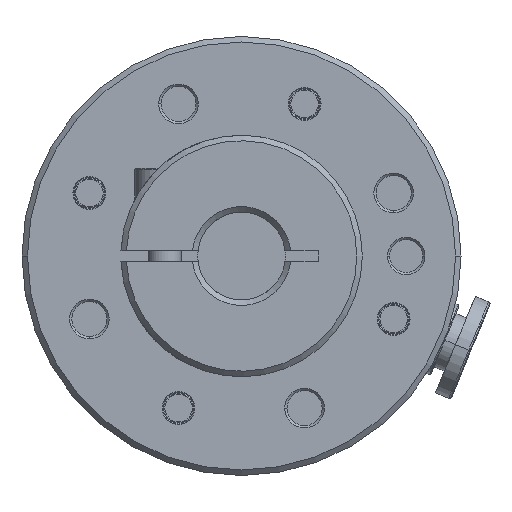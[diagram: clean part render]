
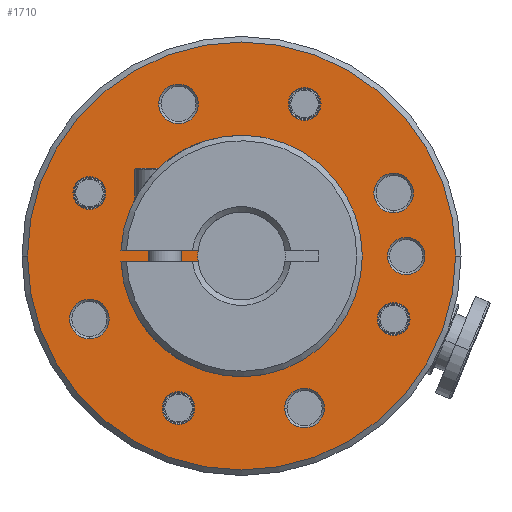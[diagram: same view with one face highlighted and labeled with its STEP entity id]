
A CAD part, front view. The second image highlights one B-rep face of the part: STEP entity #1710.
In plain terms, the highlighted planar face has unit normal (0, -1, 0).
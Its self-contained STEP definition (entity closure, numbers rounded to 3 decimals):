
#33=CARTESIAN_POINT('',(0.,-4.,0.));
#34=DIRECTION('',(0.,1.,0.));
#35=DIRECTION('',(-1.,0.,0.));
#36=AXIS2_PLACEMENT_3D('',#33,#34,#35);
#178=CARTESIAN_POINT('',(0.,-4.,0.));
#179=DIRECTION('',(0.,1.,0.));
#180=DIRECTION('',(-0.992,0.,-0.125));
#181=AXIS2_PLACEMENT_3D('',#178,#179,#180);
#231=CARTESIAN_POINT('',(0.,-4.,0.));
#232=DIRECTION('',(0.,-1.,0.));
#233=DIRECTION('',(1.,0.,0.));
#234=AXIS2_PLACEMENT_3D('',#231,#232,#233);
#236=CARTESIAN_POINT('',(0.,-4.,0.));
#237=DIRECTION('',(0.,-1.,0.));
#238=DIRECTION('',(-1.,0.,0.));
#239=AXIS2_PLACEMENT_3D('',#236,#237,#238);
#241=CARTESIAN_POINT('',(5.74,-4.,13.858));
#242=DIRECTION('',(0.,1.,0.));
#243=DIRECTION('',(1.,0.,0.));
#244=AXIS2_PLACEMENT_3D('',#241,#242,#243);
#246=CARTESIAN_POINT('',(5.74,-4.,13.858));
#247=DIRECTION('',(0.,1.,0.));
#248=DIRECTION('',(-1.,0.,0.));
#249=AXIS2_PLACEMENT_3D('',#246,#247,#248);
#251=CARTESIAN_POINT('',(13.858,-4.,-5.74));
#252=DIRECTION('',(0.,1.,0.));
#253=DIRECTION('',(0.,0.,1.));
#254=AXIS2_PLACEMENT_3D('',#251,#252,#253);
#256=CARTESIAN_POINT('',(13.858,-4.,-5.74));
#257=DIRECTION('',(0.,1.,0.));
#258=DIRECTION('',(0.,0.,-1.));
#259=AXIS2_PLACEMENT_3D('',#256,#257,#258);
#261=CARTESIAN_POINT('',(-13.858,-4.,5.74));
#262=DIRECTION('',(0.,1.,0.));
#263=DIRECTION('',(0.,0.,1.));
#264=AXIS2_PLACEMENT_3D('',#261,#262,#263);
#266=CARTESIAN_POINT('',(-13.858,-4.,5.74));
#267=DIRECTION('',(0.,1.,0.));
#268=DIRECTION('',(0.,0.,-1.));
#269=AXIS2_PLACEMENT_3D('',#266,#267,#268);
#271=CARTESIAN_POINT('',(-5.74,-4.,-13.858));
#272=DIRECTION('',(0.,1.,0.));
#273=DIRECTION('',(-1.,0.,0.));
#274=AXIS2_PLACEMENT_3D('',#271,#272,#273);
#276=CARTESIAN_POINT('',(-5.74,-4.,-13.858));
#277=DIRECTION('',(0.,1.,0.));
#278=DIRECTION('',(1.,0.,0.));
#279=AXIS2_PLACEMENT_3D('',#276,#277,#278);
#281=CARTESIAN_POINT('',(-5.74,-4.,13.858));
#282=DIRECTION('',(0.,1.,0.));
#283=DIRECTION('',(1.,0.,0.));
#284=AXIS2_PLACEMENT_3D('',#281,#282,#283);
#286=CARTESIAN_POINT('',(-5.74,-4.,13.858));
#287=DIRECTION('',(0.,1.,0.));
#288=DIRECTION('',(-1.,0.,0.));
#289=AXIS2_PLACEMENT_3D('',#286,#287,#288);
#291=CARTESIAN_POINT('',(13.858,-4.,5.74));
#292=DIRECTION('',(0.,1.,0.));
#293=DIRECTION('',(0.,0.,-1.));
#294=AXIS2_PLACEMENT_3D('',#291,#292,#293);
#296=CARTESIAN_POINT('',(13.858,-4.,5.74));
#297=DIRECTION('',(0.,1.,0.));
#298=DIRECTION('',(0.,0.,1.));
#299=AXIS2_PLACEMENT_3D('',#296,#297,#298);
#301=CARTESIAN_POINT('',(5.74,-4.,-13.858));
#302=DIRECTION('',(0.,1.,0.));
#303=DIRECTION('',(1.,0.,0.));
#304=AXIS2_PLACEMENT_3D('',#301,#302,#303);
#306=CARTESIAN_POINT('',(5.74,-4.,-13.858));
#307=DIRECTION('',(0.,1.,0.));
#308=DIRECTION('',(-1.,0.,0.));
#309=AXIS2_PLACEMENT_3D('',#306,#307,#308);
#311=CARTESIAN_POINT('',(-13.858,-4.,-5.74));
#312=DIRECTION('',(0.,1.,0.));
#313=DIRECTION('',(0.,0.,1.));
#314=AXIS2_PLACEMENT_3D('',#311,#312,#313);
#316=CARTESIAN_POINT('',(-13.858,-4.,-5.74));
#317=DIRECTION('',(0.,1.,0.));
#318=DIRECTION('',(0.,0.,-1.));
#319=AXIS2_PLACEMENT_3D('',#316,#317,#318);
#321=DIRECTION('',(-1.,0.,0.));
#322=VECTOR('',#321,7.02);
#323=CARTESIAN_POINT('',(-3.969,-4.,0.5));
#324=LINE('',#323,#322);
#325=DIRECTION('',(1.,0.,0.));
#326=VECTOR('',#325,7.02);
#327=CARTESIAN_POINT('',(-10.989,-4.,-0.5));
#328=LINE('',#327,#326);
#329=CARTESIAN_POINT('',(15.,-4.,0.));
#330=DIRECTION('',(0.,1.,0.));
#331=DIRECTION('',(1.,0.,0.));
#332=AXIS2_PLACEMENT_3D('',#329,#330,#331);
#334=CARTESIAN_POINT('',(15.,-4.,0.));
#335=DIRECTION('',(0.,1.,0.));
#336=DIRECTION('',(-1.,0.,0.));
#337=AXIS2_PLACEMENT_3D('',#334,#335,#336);
#952=CARTESIAN_POINT('',(0.,-4.,0.));
#953=DIRECTION('',(0.,1.,0.));
#954=DIRECTION('',(-0.999,0.,0.045));
#955=AXIS2_PLACEMENT_3D('',#952,#953,#954);
#1081=CARTESIAN_POINT('',(19.5,-4.,0.));
#1082=CARTESIAN_POINT('',(-19.5,-4.,0.));
#1083=VERTEX_POINT('',#1081);
#1084=VERTEX_POINT('',#1082);
#1121=CARTESIAN_POINT('',(7.19,-4.,13.858));
#1122=CARTESIAN_POINT('',(4.29,-4.,13.858));
#1123=VERTEX_POINT('',#1121);
#1124=VERTEX_POINT('',#1122);
#1129=CARTESIAN_POINT('',(13.858,-4.,-4.29));
#1130=CARTESIAN_POINT('',(13.858,-4.,-7.19));
#1131=VERTEX_POINT('',#1129);
#1132=VERTEX_POINT('',#1130);
#1137=CARTESIAN_POINT('',(-13.858,-4.,7.19));
#1138=CARTESIAN_POINT('',(-13.858,-4.,4.29));
#1139=VERTEX_POINT('',#1137);
#1140=VERTEX_POINT('',#1138);
#1145=CARTESIAN_POINT('',(-7.19,-4.,-13.858));
#1146=CARTESIAN_POINT('',(-4.29,-4.,-13.858));
#1147=VERTEX_POINT('',#1145);
#1148=VERTEX_POINT('',#1146);
#1185=CARTESIAN_POINT('',(-3.94,-4.,13.858));
#1186=CARTESIAN_POINT('',(-7.54,-4.,13.858));
#1187=VERTEX_POINT('',#1185);
#1188=VERTEX_POINT('',#1186);
#1193=CARTESIAN_POINT('',(13.858,-4.,3.94));
#1194=CARTESIAN_POINT('',(13.858,-4.,7.54));
#1195=VERTEX_POINT('',#1193);
#1196=VERTEX_POINT('',#1194);
#1201=CARTESIAN_POINT('',(7.54,-4.,-13.858));
#1202=CARTESIAN_POINT('',(3.94,-4.,-13.858));
#1203=VERTEX_POINT('',#1201);
#1204=VERTEX_POINT('',#1202);
#1209=CARTESIAN_POINT('',(-13.858,-4.,-3.94));
#1210=CARTESIAN_POINT('',(-13.858,-4.,-7.54));
#1211=VERTEX_POINT('',#1209);
#1212=VERTEX_POINT('',#1210);
#1249=CARTESIAN_POINT('',(-3.969,-4.,0.5));
#1250=CARTESIAN_POINT('',(-10.989,-4.,0.5));
#1251=VERTEX_POINT('',#1249);
#1252=VERTEX_POINT('',#1250);
#1253=CARTESIAN_POINT('',(-10.989,-4.,-0.5));
#1254=CARTESIAN_POINT('',(-3.969,-4.,-0.5));
#1255=VERTEX_POINT('',#1253);
#1256=VERTEX_POINT('',#1254);
#1257=CARTESIAN_POINT('',(-4.,-4.,0.));
#1258=VERTEX_POINT('',#1257);
#1327=CARTESIAN_POINT('',(16.7,-4.,0.));
#1328=CARTESIAN_POINT('',(13.3,-4.,0.));
#1329=VERTEX_POINT('',#1327);
#1330=VERTEX_POINT('',#1328);
#1637=CARTESIAN_POINT('',(0.,-4.,0.));
#1638=DIRECTION('',(0.,1.,0.));
#1639=DIRECTION('',(1.,0.,0.));
#1640=AXIS2_PLACEMENT_3D('',#1637,#1638,#1639);
#1641=PLANE('',#1640);
#1643=ORIENTED_EDGE('',*,*,#1642,.F.);
#1645=ORIENTED_EDGE('',*,*,#1644,.F.);
#1646=EDGE_LOOP('',(#1643,#1645));
#1647=FACE_OUTER_BOUND('',#1646,.F.);
#1649=ORIENTED_EDGE('',*,*,#1648,.F.);
#1651=ORIENTED_EDGE('',*,*,#1650,.F.);
#1652=EDGE_LOOP('',(#1649,#1651));
#1653=FACE_BOUND('',#1652,.F.);
#1655=ORIENTED_EDGE('',*,*,#1654,.F.);
#1657=ORIENTED_EDGE('',*,*,#1656,.F.);
#1658=EDGE_LOOP('',(#1655,#1657));
#1659=FACE_BOUND('',#1658,.F.);
#1661=ORIENTED_EDGE('',*,*,#1660,.F.);
#1663=ORIENTED_EDGE('',*,*,#1662,.F.);
#1664=EDGE_LOOP('',(#1661,#1663));
#1665=FACE_BOUND('',#1664,.F.);
#1667=ORIENTED_EDGE('',*,*,#1666,.F.);
#1669=ORIENTED_EDGE('',*,*,#1668,.F.);
#1670=EDGE_LOOP('',(#1667,#1669));
#1671=FACE_BOUND('',#1670,.F.);
#1673=ORIENTED_EDGE('',*,*,#1672,.F.);
#1675=ORIENTED_EDGE('',*,*,#1674,.F.);
#1676=EDGE_LOOP('',(#1673,#1675));
#1677=FACE_BOUND('',#1676,.F.);
#1679=ORIENTED_EDGE('',*,*,#1678,.F.);
#1681=ORIENTED_EDGE('',*,*,#1680,.F.);
#1682=EDGE_LOOP('',(#1679,#1681));
#1683=FACE_BOUND('',#1682,.F.);
#1685=ORIENTED_EDGE('',*,*,#1684,.F.);
#1687=ORIENTED_EDGE('',*,*,#1686,.F.);
#1688=EDGE_LOOP('',(#1685,#1687));
#1689=FACE_BOUND('',#1688,.F.);
#1691=ORIENTED_EDGE('',*,*,#1690,.F.);
#1693=ORIENTED_EDGE('',*,*,#1692,.F.);
#1694=EDGE_LOOP('',(#1691,#1693));
#1695=FACE_BOUND('',#1694,.F.);
#1697=ORIENTED_EDGE('',*,*,#1696,.F.);
#1698=ORIENTED_EDGE('',*,*,#1451,.F.);
#1699=ORIENTED_EDGE('',*,*,#1358,.F.);
#1700=ORIENTED_EDGE('',*,*,#1608,.F.);
#1701=ORIENTED_EDGE('',*,*,#1555,.F.);
#1702=EDGE_LOOP('',(#1697,#1698,#1699,#1700,#1701));
#1703=FACE_BOUND('',#1702,.F.);
#1705=ORIENTED_EDGE('',*,*,#1704,.F.);
#1707=ORIENTED_EDGE('',*,*,#1706,.F.);
#1708=EDGE_LOOP('',(#1705,#1707));
#1709=FACE_BOUND('',#1708,.F.);
#1710=ADVANCED_FACE('',(#1647,#1653,#1659,#1665,#1671,#1677,#1683,#1689,#1695,
#1703,#1709),#1641,.F.);
#37=CIRCLE('',#36,4.);
#182=CIRCLE('',#181,4.);
#235=CIRCLE('',#234,19.5);
#240=CIRCLE('',#239,19.5);
#245=CIRCLE('',#244,1.45);
#250=CIRCLE('',#249,1.45);
#255=CIRCLE('',#254,1.45);
#260=CIRCLE('',#259,1.45);
#265=CIRCLE('',#264,1.45);
#270=CIRCLE('',#269,1.45);
#275=CIRCLE('',#274,1.45);
#280=CIRCLE('',#279,1.45);
#285=CIRCLE('',#284,1.8);
#290=CIRCLE('',#289,1.8);
#295=CIRCLE('',#294,1.8);
#300=CIRCLE('',#299,1.8);
#305=CIRCLE('',#304,1.8);
#310=CIRCLE('',#309,1.8);
#315=CIRCLE('',#314,1.8);
#320=CIRCLE('',#319,1.8);
#333=CIRCLE('',#332,1.7);
#338=CIRCLE('',#337,1.7);
#956=CIRCLE('',#955,11.);
#1358=EDGE_CURVE('',#1258,#1251,#37,.T.);
#1451=EDGE_CURVE('',#1251,#1252,#324,.T.);
#1555=EDGE_CURVE('',#1255,#1256,#328,.T.);
#1608=EDGE_CURVE('',#1256,#1258,#182,.T.);
#1642=EDGE_CURVE('',#1083,#1084,#235,.T.);
#1644=EDGE_CURVE('',#1084,#1083,#240,.T.);
#1648=EDGE_CURVE('',#1123,#1124,#245,.T.);
#1650=EDGE_CURVE('',#1124,#1123,#250,.T.);
#1654=EDGE_CURVE('',#1131,#1132,#255,.T.);
#1656=EDGE_CURVE('',#1132,#1131,#260,.T.);
#1660=EDGE_CURVE('',#1139,#1140,#265,.T.);
#1662=EDGE_CURVE('',#1140,#1139,#270,.T.);
#1666=EDGE_CURVE('',#1147,#1148,#275,.T.);
#1668=EDGE_CURVE('',#1148,#1147,#280,.T.);
#1672=EDGE_CURVE('',#1187,#1188,#285,.T.);
#1674=EDGE_CURVE('',#1188,#1187,#290,.T.);
#1678=EDGE_CURVE('',#1195,#1196,#295,.T.);
#1680=EDGE_CURVE('',#1196,#1195,#300,.T.);
#1684=EDGE_CURVE('',#1203,#1204,#305,.T.);
#1686=EDGE_CURVE('',#1204,#1203,#310,.T.);
#1690=EDGE_CURVE('',#1211,#1212,#315,.T.);
#1692=EDGE_CURVE('',#1212,#1211,#320,.T.);
#1696=EDGE_CURVE('',#1252,#1255,#956,.T.);
#1704=EDGE_CURVE('',#1329,#1330,#333,.T.);
#1706=EDGE_CURVE('',#1330,#1329,#338,.T.);
